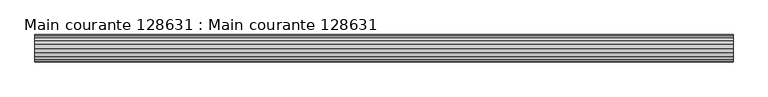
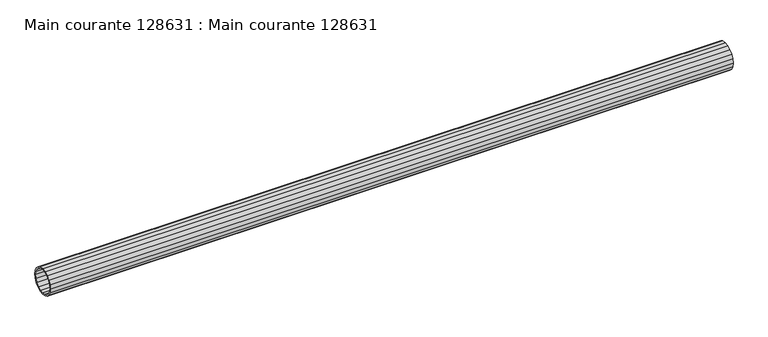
"""IFC4 building model written with IfcOpenShell, lengths in millimetres: beam geometry, Main courante 128631 : Main courante 128631."""

import ifcopenshell
import ifcopenshell.guid

model = None  # the IFC model being written
_history = None  # IfcOwnerHistory: only IFC2X3 demands one
_inside = {}  # id of a spatial element -> (the spatial element, [elements in it])
_under = {}  # id of a project, library or spatial element -> (it, [spatial elements below it])
_declared = {}  # id of a project -> (the project, [libraries it declares])
_typed = {}  # id of a type object -> (the type object, [elements of that type])
_made_of = {}  # id of a material, layer set ... -> (it, [elements and type objects made of it])


def new_model(schema):
    """Start an empty IFC model of exactly this schema.

    Asked for "IFC4X3", IfcOpenShell would pick the latest addendum, in which some entities
    have other attributes; the version numbers below select the first issue.
    IFC2X3 requires an IfcOwnerHistory on every rooted entity: one is made here for all.
    """
    global model, _history
    if schema == "IFC4X3":
        model = ifcopenshell.file(schema_version=(4, 3, 0, 0))
    else:
        model = ifcopenshell.file(schema=schema)
    _inside.clear()
    _under.clear()
    _declared.clear()
    _typed.clear()
    _made_of.clear()
    _history = None
    if model.schema == "IFC2X3":
        org = make("IfcOrganization", Name="unknown")
        user = make(
            "IfcPersonAndOrganization",
            ThePerson=make("IfcPerson", FamilyName="unknown"),
            TheOrganization=org,
        )
        app = make(
            "IfcApplication",
            ApplicationDeveloper=org,
            Version="unknown",
            ApplicationFullName="unknown",
            ApplicationIdentifier="unknown",
        )
        _history = make(
            "IfcOwnerHistory",
            OwningUser=user,
            OwningApplication=app,
            ChangeAction="ADDED",
            CreationDate=0,
        )
    return model


def make(cls, **values):
    """One entity of the class cls with the attributes given. An attribute that is None is left unset."""
    return model.create_entity(
        cls, **{name: value for name, value in values.items() if value is not None}
    )


def rooted(cls, **values):
    """An entity with a GlobalId (a new one), such as an element, a storey or a relation."""
    return make(cls, GlobalId=ifcopenshell.guid.new(), OwnerHistory=_history, **values)


def si_unit(unit_type, name, prefix=None):
    """IfcSIUnit, for example si_unit("LENGTHUNIT", "METRE", prefix="MILLI")."""
    return make("IfcSIUnit", UnitType=unit_type, Prefix=prefix, Name=name)


def assignment(units):
    """IfcUnitAssignment: the units of a project."""
    return None if units is None else make("IfcUnitAssignment", Units=units)


def point(xyz):
    """IfcCartesianPoint."""
    return None if xyz is None else make("IfcCartesianPoint", Coordinates=xyz)


def direction(xyz):
    """IfcDirection."""
    return None if xyz is None else make("IfcDirection", DirectionRatios=xyz)


def frame(location, z_axis=None, x_axis=None):
    """IfcAxis2Placement3D, a coordinate frame: its origin and axes. An axis left out is left unset."""
    return make(
        "IfcAxis2Placement3D",
        Location=point(location),
        Axis=direction(z_axis),
        RefDirection=direction(x_axis),
    )


def origin():
    """The frame at (0, 0, 0) with its axes left unset."""
    return frame((0.0, 0.0, 0.0))


def place(relative_to, where):
    """IfcLocalPlacement: puts the frame where relative to a parent placement (None: the world)."""
    return make(
        "IfcLocalPlacement", PlacementRelTo=relative_to, RelativePlacement=where
    )


def context(
    kind, dimensions, precision=None, world=None, true_north=None, identifier=None
):
    """IfcGeometricRepresentationContext, for example the 3D "Model" context."""
    return make(
        "IfcGeometricRepresentationContext",
        ContextIdentifier=identifier,
        ContextType=kind,
        CoordinateSpaceDimension=dimensions,
        Precision=precision,
        WorldCoordinateSystem=world,
        TrueNorth=true_north,
    )


def project(units=None, contexts=None):
    """IfcProject with its units and contexts."""
    return rooted(
        "IfcProject",
        Name="project",
        RepresentationContexts=contexts,
        UnitsInContext=assignment(units),
    )


def spatial(cls, under=None, at=None, **own):
    """A site, building, storey or space (cls), placed at a placement, below another one or the project."""
    s = rooted(cls, ObjectPlacement=at, **own)
    if under is not None:
        _under.setdefault(under.id(), (under, []))[1].append(s)
    return s


def polyline(points):
    """IfcPolyline through the points."""
    return make("IfcPolyline", Points=[point(p) for p in points])


def outline(outer, holes=None, kind="AREA"):
    """IfcArbitraryClosedProfileDef: a profile drawn as a closed curve; with holes, ...WithVoids."""
    if holes is None:
        return make("IfcArbitraryClosedProfileDef", ProfileType=kind, OuterCurve=outer)
    return make(
        "IfcArbitraryProfileDefWithVoids",
        ProfileType=kind,
        OuterCurve=outer,
        InnerCurves=holes,
    )


def extrude(swept, where, along, depth):
    """IfcExtrudedAreaSolid: the profile swept, set in the frame where, extruded along a direction by depth."""
    return make(
        "IfcExtrudedAreaSolid",
        SweptArea=swept,
        Position=where,
        ExtrudedDirection=direction(along),
        Depth=depth,
    )


def shape(context_of_items, identifier, shape_type, items):
    """IfcShapeRepresentation: the items that make up one representation, for example the "Body"."""
    return make(
        "IfcShapeRepresentation",
        ContextOfItems=context_of_items,
        RepresentationIdentifier=identifier,
        RepresentationType=shape_type,
        Items=items,
    )


def source(mapping_origin, context_of_items, identifier, shape_type, items):
    """IfcRepresentationMap: a shape defined once, which mapped items show again and again."""
    return make(
        "IfcRepresentationMap",
        MappingOrigin=mapping_origin,
        MappedRepresentation=shape(context_of_items, identifier, shape_type, items),
    )


def transform(
    local_origin,
    x_axis=None,
    y_axis=None,
    z_axis=None,
    scale=None,
    scale2=None,
    scale3=None,
    uniform=True,
):
    """IfcCartesianTransformationOperator3D, or its non-uniform kind. x_axis, y_axis, z_axis: its Axis1, 2, 3."""
    if uniform:
        return make(
            "IfcCartesianTransformationOperator3D",
            Axis1=direction(x_axis),
            Axis2=direction(y_axis),
            LocalOrigin=point(local_origin),
            Scale=scale,
            Axis3=direction(z_axis),
        )
    return make(
        "IfcCartesianTransformationOperator3DnonUniform",
        Axis1=direction(x_axis),
        Axis2=direction(y_axis),
        LocalOrigin=point(local_origin),
        Scale=scale,
        Axis3=direction(z_axis),
        Scale2=scale2,
        Scale3=scale3,
    )


def mapped(mapping_source, mapping_target):
    """IfcMappedItem: shows the shape of a source again, moved by a transform."""
    return make(
        "IfcMappedItem", MappingSource=mapping_source, MappingTarget=mapping_target
    )


def made_of(thing, what):
    """Note that an element or type object is made of a material, layer set ...; save() writes the relation."""
    if what is not None:
        _made_of.setdefault(what.id(), (what, []))[1].append(thing)
    return thing


def element(
    cls,
    number,
    at=None,
    inside=None,
    cuts=None,
    type_object=None,
    material=None,
    context=None,
    identifier="Body",
    shape_type=None,
    held_by="IfcProductDefinitionShape",
    body=None,
    shapes=None,
    **own,
):
    """One element of the class cls, such as IfcWall. Its Tag is "e" and its number.

    at: its placement. inside: the storey or other place that contains it. cuts: it is an
    opening in that element (IfcRelVoidsElement). A single representation is given by context,
    identifier, shape_type and body (its items); several are given by shapes. held_by: the class
    of the entity that holds the representations. save() writes the other relations.
    """
    e = rooted(cls, Tag="e%d" % number, ObjectPlacement=at, **own)
    if body is not None:
        shapes = [shape(context, identifier, shape_type, body)]
    if shapes is not None:
        e.Representation = make(held_by, Representations=shapes)
    if inside is not None:
        _inside.setdefault(inside.id(), (inside, []))[1].append(e)
    if cuts is not None:
        rooted(
            "IfcRelVoidsElement", RelatingBuildingElement=cuts, RelatedOpeningElement=e
        )
    if type_object is not None:
        _typed.setdefault(type_object.id(), (type_object, []))[1].append(e)
    return made_of(e, material)


def aggregate(whole, parts):
    """IfcRelAggregates: a whole, such as a stair, and the parts it consists of."""
    return rooted("IfcRelAggregates", RelatingObject=whole, RelatedObjects=parts)


def save(model, path):
    """Write the relations noted so far, then the file.

    IfcRelAggregates (storeys below a building ...), IfcRelContainedInSpatialStructure (elements
    in a storey), IfcRelDefinesByType, IfcRelAssociatesMaterial and IfcRelDeclares: one each for
    every whole, place, type object, material and project.
    """
    for whole, parts in _under.values():
        aggregate(whole, parts)
    for where, things in _inside.values():
        rooted(
            "IfcRelContainedInSpatialStructure",
            RelatedElements=things,
            RelatingStructure=where,
        )
    for kind, things in _typed.values():
        rooted("IfcRelDefinesByType", RelatedObjects=things, RelatingType=kind)
    for what, things in _made_of.values():
        rooted("IfcRelAssociatesMaterial", RelatedObjects=things, RelatingMaterial=what)
    for by, libraries in _declared.values():
        rooted("IfcRelDeclares", RelatingContext=by, RelatedDefinitions=libraries)
    model.write(path)


def main_courante_128631_main_courante_128631_6130c191(model_context):
    return source(origin(), model_context, "Body", "SweptSolid", [
        extrude(outline(polyline([(-14166.5, 8765.0), (-14165.3180149, 8772.4627604), (-14161.8877604, 8779.1950138), (-14156.5450138, 8784.5377604), (-14149.8127604, 8787.9680149), (-14142.35, 8789.15), (-14134.8872396, 8787.9680149), (-14128.1549862, 8784.5377604), (-14122.8122396, 8779.1950138), (-14119.3819851, 8772.4627604), (-14118.2, 8765.0), (-14119.3819851, 8757.5372396), (-14122.8122396, 8750.8049862), (-14128.1549862, 8745.4622396), (-14134.8872396, 8742.0319851), (-14142.35, 8740.85), (-14149.8127604, 8742.0319851), (-14156.5450138, 8745.4622396), (-14161.8877604, 8750.8049862), (-14165.3180149, 8757.5372396), (-14166.5, 8765.0)]), holes=[polyline([(-14164.0, 8765.0), (-14162.9403736, 8758.3097821), (-14159.8652179, 8752.2744493), (-14155.0755507, 8747.4847821), (-14149.0402179, 8744.4096264), (-14142.35, 8743.35), (-14135.6597821, 8744.4096264), (-14129.6244493, 8747.4847821), (-14124.8347821, 8752.2744493), (-14121.7596264, 8758.3097821), (-14120.7, 8765.0), (-14121.7596264, 8771.6902179), (-14124.8347821, 8777.7255507), (-14129.6244493, 8782.5152179), (-14135.6597821, 8785.5903736), (-14142.35, 8786.65), (-14149.0402179, 8785.5903736), (-14155.0755507, 8782.5152179), (-14159.8652179, 8777.7255507), (-14162.9403736, 8771.6902179), (-14164.0, 8765.0)])]), frame((1238.4999999, 0.0, 0.0), z_axis=(1.0, 0.0, 0.0), x_axis=(0.0, 1.0, 0.0)), (0.0, 0.0, 1.0), 1228.0),
    ])


if __name__ == "__main__":
    model = new_model("IFC4")
    model_context = context("Model", 3, world=origin())
    ifc_project = project(units=[si_unit("LENGTHUNIT", "METRE", prefix="MILLI")], contexts=[model_context])
    site = spatial("IfcSite", under=ifc_project)
    building = spatial("IfcBuilding", under=site)
    placement = place(None, origin())
    main_courante_128631_main_courante_128631_shape = main_courante_128631_main_courante_128631_6130c191(model_context)
    element("IfcBeam", 1, ObjectType="Main courante 128631 : Main courante 128631", at=placement, inside=building, context=model_context, shape_type="MappedRepresentation", body=[
        mapped(main_courante_128631_main_courante_128631_shape, transform((0.0, 0.0, 0.0), x_axis=(1.0, 0.0, 0.0), y_axis=(0.0, 1.0, 0.0), z_axis=(0.0, 0.0, 1.0))),
    ])
    save(model, "model.ifc")
